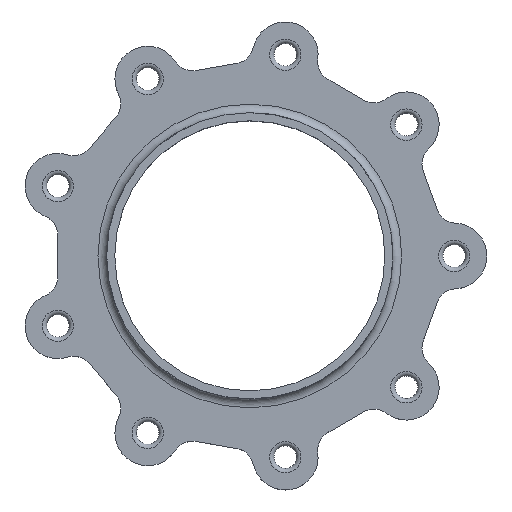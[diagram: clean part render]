
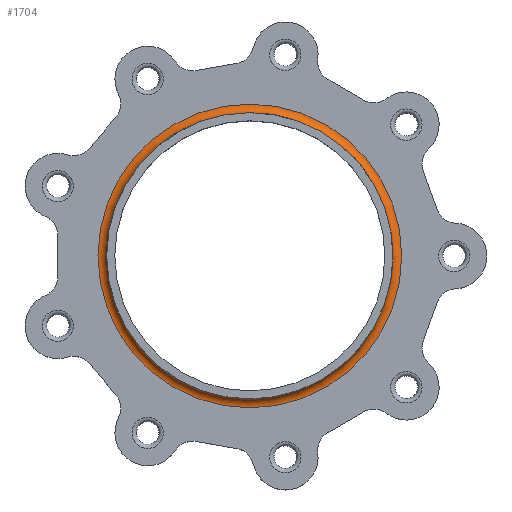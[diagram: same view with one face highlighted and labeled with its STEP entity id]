
A CAD part, top view. The second image highlights one B-rep face of the part: STEP entity #1704.
In plain terms, the highlighted toroidal (fillet/blend) face has major radius 34.75 mm and minor radius 2 mm.
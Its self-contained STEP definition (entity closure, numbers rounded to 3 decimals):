
#42=TOROIDAL_SURFACE('',#1933,34.75,2.);
#172=CIRCLE('',#1865,34.75);
#222=CIRCLE('',#1934,2.);
#223=CIRCLE('',#1935,32.75);
#317=FACE_OUTER_BOUND('',#424,.T.);
#424=EDGE_LOOP('',(#1463,#1464,#1465,#1466));
#772=VERTEX_POINT('',#3484);
#804=VERTEX_POINT('',#3585);
#992=EDGE_CURVE('',#772,#772,#172,.T.);
#1042=EDGE_CURVE('',#772,#804,#222,.T.);
#1043=EDGE_CURVE('',#804,#804,#223,.T.);
#1463=ORIENTED_EDGE('',*,*,#992,.T.);
#1464=ORIENTED_EDGE('',*,*,#1042,.T.);
#1465=ORIENTED_EDGE('',*,*,#1043,.T.);
#1466=ORIENTED_EDGE('',*,*,#1042,.F.);
#1704=ADVANCED_FACE('',(#317),#42,.F.);
#1865=AXIS2_PLACEMENT_3D('',#3485,#2282,#2283);
#1933=AXIS2_PLACEMENT_3D('',#3584,#2418,#2419);
#1934=AXIS2_PLACEMENT_3D('',#3586,#2420,#2421);
#1935=AXIS2_PLACEMENT_3D('',#3587,#2422,#2423);
#2282=DIRECTION('center_axis',(0.,0.,1.));
#2283=DIRECTION('ref_axis',(-1.,0.,0.));
#2418=DIRECTION('center_axis',(0.,0.,1.));
#2419=DIRECTION('ref_axis',(1.,0.,0.));
#2420=DIRECTION('center_axis',(0.,-1.,0.));
#2421=DIRECTION('ref_axis',(-1.,0.,0.));
#2422=DIRECTION('center_axis',(0.,0.,-1.));
#2423=DIRECTION('ref_axis',(-1.,0.,0.));
#3484=CARTESIAN_POINT('',(-34.75,0.,328.216));
#3485=CARTESIAN_POINT('Origin',(0.,0.,328.216));
#3584=CARTESIAN_POINT('Origin',(0.,0.,330.216));
#3585=CARTESIAN_POINT('',(-32.75,0.,330.216));
#3586=CARTESIAN_POINT('Origin',(-34.75,0.,330.216));
#3587=CARTESIAN_POINT('Origin',(0.,0.,330.216));
